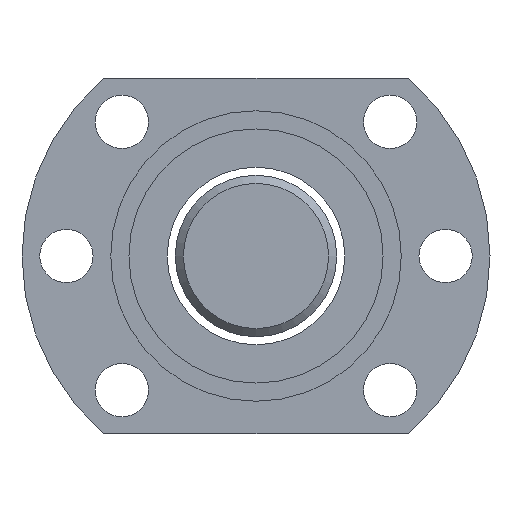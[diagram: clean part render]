
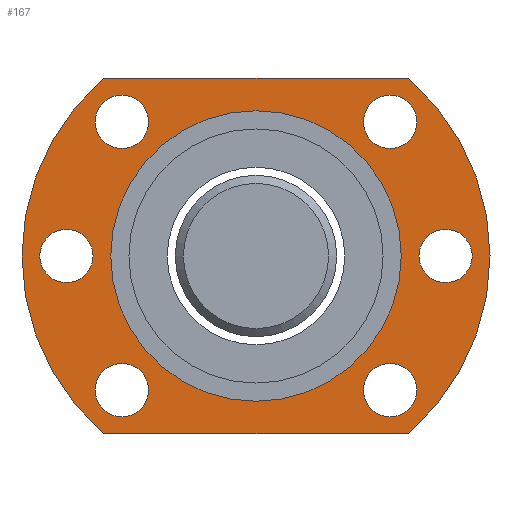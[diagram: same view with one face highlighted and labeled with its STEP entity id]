
A CAD part, left-side view. The second image highlights one B-rep face of the part: STEP entity #167.
In plain terms, the highlighted planar face has unit normal (-1, 0, 0).
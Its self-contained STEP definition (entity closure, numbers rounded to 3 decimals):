
#113=LINE('',#1132,#121);
#114=LINE('',#1136,#122);
#121=VECTOR('',#930,1.);
#122=VECTOR('',#933,1.);
#136=PLANE('',#782);
#167=ADVANCED_FACE('',(#267,#268,#269,#270,#271,#272,#273,#274),#136,.T.);
#267=FACE_BOUND('',#367,.T.);
#268=FACE_BOUND('',#368,.T.);
#269=FACE_BOUND('',#369,.T.);
#270=FACE_BOUND('',#370,.T.);
#271=FACE_BOUND('',#371,.T.);
#272=FACE_BOUND('',#372,.T.);
#273=FACE_BOUND('',#373,.T.);
#274=FACE_BOUND('',#374,.T.);
#367=EDGE_LOOP('',(#476));
#368=EDGE_LOOP('',(#477));
#369=EDGE_LOOP('',(#478,#479,#480,#481));
#370=EDGE_LOOP('',(#482));
#371=EDGE_LOOP('',(#483));
#372=EDGE_LOOP('',(#484));
#373=EDGE_LOOP('',(#485));
#374=EDGE_LOOP('',(#486));
#476=ORIENTED_EDGE('',*,*,#641,.T.);
#477=ORIENTED_EDGE('',*,*,#630,.F.);
#478=ORIENTED_EDGE('',*,*,#642,.T.);
#479=ORIENTED_EDGE('',*,*,#643,.T.);
#480=ORIENTED_EDGE('',*,*,#644,.T.);
#481=ORIENTED_EDGE('',*,*,#645,.T.);
#482=ORIENTED_EDGE('',*,*,#646,.F.);
#483=ORIENTED_EDGE('',*,*,#647,.F.);
#484=ORIENTED_EDGE('',*,*,#648,.F.);
#485=ORIENTED_EDGE('',*,*,#649,.T.);
#486=ORIENTED_EDGE('',*,*,#650,.T.);
#572=VERTEX_POINT('',#1104);
#583=VERTEX_POINT('',#1128);
#584=VERTEX_POINT('',#1130);
#585=VERTEX_POINT('',#1131);
#586=VERTEX_POINT('',#1133);
#587=VERTEX_POINT('',#1135);
#588=VERTEX_POINT('',#1138);
#589=VERTEX_POINT('',#1140);
#590=VERTEX_POINT('',#1142);
#591=VERTEX_POINT('',#1144);
#592=VERTEX_POINT('',#1146);
#630=EDGE_CURVE('',#572,#572,#692,.T.);
#641=EDGE_CURVE('',#583,#583,#701,.T.);
#642=EDGE_CURVE('',#584,#585,#702,.T.);
#643=EDGE_CURVE('',#585,#586,#113,.T.);
#644=EDGE_CURVE('',#586,#587,#703,.T.);
#645=EDGE_CURVE('',#587,#584,#114,.T.);
#646=EDGE_CURVE('',#588,#588,#704,.T.);
#647=EDGE_CURVE('',#589,#589,#705,.T.);
#648=EDGE_CURVE('',#590,#590,#706,.T.);
#649=EDGE_CURVE('',#591,#591,#707,.T.);
#650=EDGE_CURVE('',#592,#592,#708,.T.);
#692=CIRCLE('',#763,18.);
#701=CIRCLE('',#774,3.3);
#702=CIRCLE('',#775,29.);
#703=CIRCLE('',#776,29.);
#704=CIRCLE('',#777,3.3);
#705=CIRCLE('',#778,3.3);
#706=CIRCLE('',#779,3.3);
#707=CIRCLE('',#780,3.3);
#708=CIRCLE('',#781,3.3);
#763=AXIS2_PLACEMENT_3D('',#1103,#902,#903);
#774=AXIS2_PLACEMENT_3D('',#1127,#926,#927);
#775=AXIS2_PLACEMENT_3D('',#1129,#928,#929);
#776=AXIS2_PLACEMENT_3D('',#1134,#931,#932);
#777=AXIS2_PLACEMENT_3D('',#1137,#934,#935);
#778=AXIS2_PLACEMENT_3D('',#1139,#936,#937);
#779=AXIS2_PLACEMENT_3D('',#1141,#938,#939);
#780=AXIS2_PLACEMENT_3D('',#1143,#940,#941);
#781=AXIS2_PLACEMENT_3D('',#1145,#942,#943);
#782=AXIS2_PLACEMENT_3D('',#1147,#944,#945);
#902=DIRECTION('',(-1.,0.,0.));
#903=DIRECTION('',(0.,0.,-1.));
#926=DIRECTION('',(1.,0.,0.));
#927=DIRECTION('',(0.,0.,1.));
#928=DIRECTION('',(-1.,0.,0.));
#929=DIRECTION('',(0.,0.,-1.));
#930=DIRECTION('',(0.,-1.,0.));
#931=DIRECTION('',(-1.,0.,0.));
#932=DIRECTION('',(0.,0.,-1.));
#933=DIRECTION('',(0.,1.,0.));
#934=DIRECTION('',(-1.,0.,0.));
#935=DIRECTION('',(0.,0.,1.));
#936=DIRECTION('',(-1.,0.,0.));
#937=DIRECTION('',(0.,0.,1.));
#938=DIRECTION('',(-1.,0.,0.));
#939=DIRECTION('',(0.,0.,1.));
#940=DIRECTION('',(1.,0.,0.));
#941=DIRECTION('',(0.,0.,1.));
#942=DIRECTION('',(1.,0.,0.));
#943=DIRECTION('',(0.,0.,1.));
#944=DIRECTION('',(-1.,0.,0.));
#945=DIRECTION('',(0.,0.,1.));
#1103=CARTESIAN_POINT('',(20.573,-39.639,19.458));
#1104=CARTESIAN_POINT('',(20.573,-39.639,1.458));
#1127=CARTESIAN_POINT('',(20.573,-63.139,19.458));
#1128=CARTESIAN_POINT('',(20.573,-63.139,22.758));
#1129=CARTESIAN_POINT('',(20.573,-39.639,19.458));
#1130=CARTESIAN_POINT('',(20.573,-20.745,41.458));
#1131=CARTESIAN_POINT('',(20.573,-20.745,-2.542));
#1132=CARTESIAN_POINT('',(20.573,-20.745,-2.542));
#1133=CARTESIAN_POINT('',(20.573,-58.533,-2.542));
#1134=CARTESIAN_POINT('',(20.573,-39.639,19.458));
#1135=CARTESIAN_POINT('',(20.573,-58.533,41.458));
#1136=CARTESIAN_POINT('',(20.573,-58.533,41.458));
#1137=CARTESIAN_POINT('',(20.573,-16.139,19.458));
#1138=CARTESIAN_POINT('',(20.573,-16.139,22.758));
#1139=CARTESIAN_POINT('',(20.573,-23.022,36.075));
#1140=CARTESIAN_POINT('',(20.573,-23.022,39.375));
#1141=CARTESIAN_POINT('',(20.573,-23.022,2.841));
#1142=CARTESIAN_POINT('',(20.573,-23.022,6.141));
#1143=CARTESIAN_POINT('',(20.573,-56.256,2.841));
#1144=CARTESIAN_POINT('',(20.573,-56.256,6.141));
#1145=CARTESIAN_POINT('',(20.573,-56.256,36.075));
#1146=CARTESIAN_POINT('',(20.573,-56.256,39.375));
#1147=CARTESIAN_POINT('',(20.573,-39.639,19.458));
